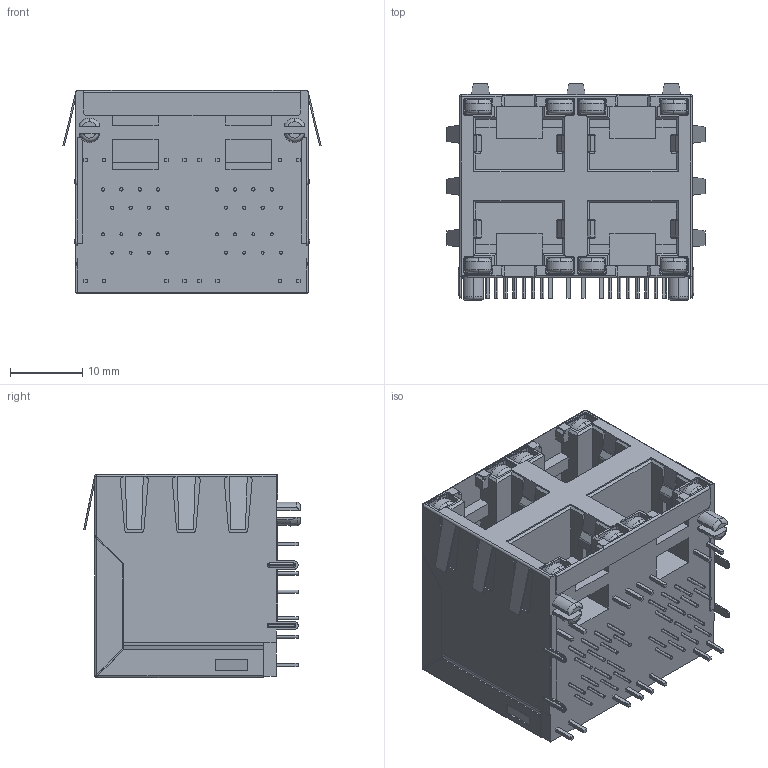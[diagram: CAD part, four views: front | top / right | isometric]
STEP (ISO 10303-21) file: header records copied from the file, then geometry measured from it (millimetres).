
FILE_DESCRIPTION (( 'STEP AP203' ), '1' );
FILE_NAME ('HC-RJ45-059A-2x2-1 (湍腑湍粟-HCTL).STEP', '2026-03-18T09:24:03', ( '' ), ( '' ), 'SwSTEP 2.0', 'SolidWorks 2025', '' );
FILE_SCHEMA (( 'CONFIG_CONTROL_DESIGN' ));
Length unit declared in the file: millimetre
Products named in the file (1): HC-RJ45-059A-2x2-1 (带灯带弹-HCTL)
Bounding box: 35.75 x 30 x 28.15 mm (x, y, z)
Volume: 18503.1 mm3; surface area: 8095.5 mm2
Topology: 1 solids, 1 shells, 1164 faces, 3076 edges, 1944 vertices
Faces by surface type: plane 739, cylinder 337, torus 50, sphere 36, cone 2
Entity records: 35636 total; most frequent: CARTESIAN_POINT 6516, ORIENTED_EDGE 6096, DIRECTION 6062, EDGE_CURVE 3048, LINE 2176, VECTOR 2176, VERTEX_POINT 1944, AXIS2_PLACEMENT_3D 1943
